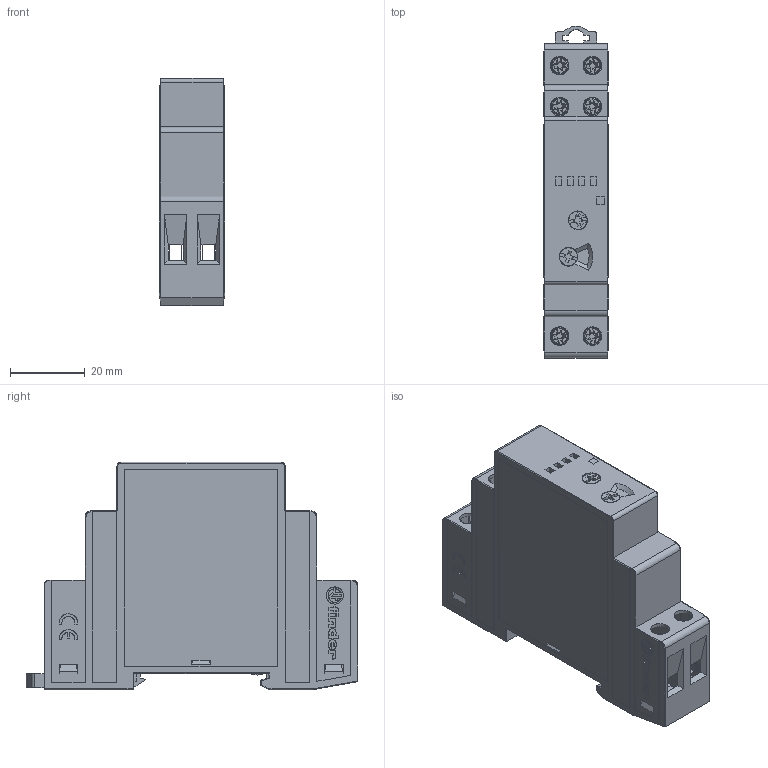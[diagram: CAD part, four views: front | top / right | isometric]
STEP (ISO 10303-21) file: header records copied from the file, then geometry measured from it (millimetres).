
FILE_DESCRIPTION(('STEP AP214'),'2;1');
FILE_NAME('1401_rev01.stp','2013-09-17T11:06:17',(''),(''),'2007.1.106','THINKDESIGN','');
FILE_SCHEMA(('AUTOMOTIVE_DESIGN'));
Length unit declared in the file: millimetre
Products named in the file (1): top
Bounding box: 17.5 x 88.85 x 60.8 mm (x, y, z)
Surface area: 16104.1 mm2 (no closed solid volume)
Topology: 0 solids, 0 shells, 994 faces, 5689 edges, 5679 vertices
Faces by surface type: plane 780, cylinder 109, bspline 105
Full cylindrical faces by diameter (mm): 3 x4, 5 x7
Entity records: 51500 total; most frequent: CARTESIAN_POINT 18669, DIRECTION 6949, COMPOSITE_CURVE_SEGMENT 5689, TRIMMED_CURVE 4933, VECTOR 4715, LINE 4715, AXIS2_PLACEMENT_3D 1117, OUTER_BOUNDARY_CURVE 994
